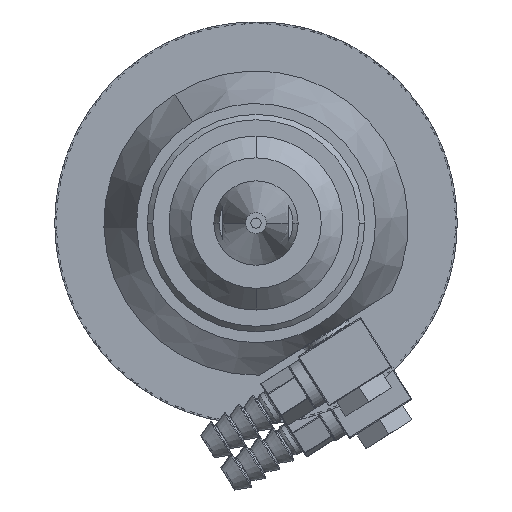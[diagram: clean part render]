
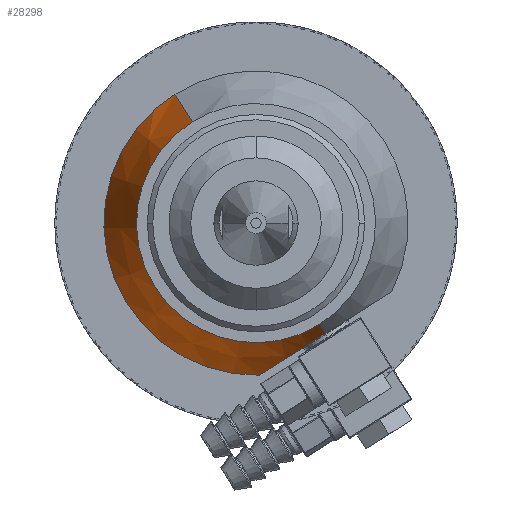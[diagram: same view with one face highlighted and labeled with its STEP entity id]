
A CAD part, front view. The second image highlights one B-rep face of the part: STEP entity #28298.
In plain terms, the highlighted conical face has half-angle 20.518 degrees and reference radius 17.462 mm.
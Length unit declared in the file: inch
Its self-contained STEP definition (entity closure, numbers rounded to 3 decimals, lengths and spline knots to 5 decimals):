
#683 = CARTESIAN_POINT ( 'NONE',  ( 0.10407, -0.0493, -0.82056 ) ) ;
#944 = CARTESIAN_POINT ( 'NONE',  ( 0.28427, -0.22201, -0.70722 ) ) ;
#1581 = AXIS2_PLACEMENT_3D ( 'NONE', #28275, #9425, #25218 ) ;
#2299 = CARTESIAN_POINT ( 'NONE',  ( 0., -0.4215, 0. ) ) ;
#3212 = EDGE_CURVE ( 'NONE', #35968, #34812, #36698, .T. ) ;
#3758 = CARTESIAN_POINT ( 'NONE',  ( 0.31649, -0.23769, -0.68695 ) ) ;
#3933 = CARTESIAN_POINT ( 'NONE',  ( 0.32483, -0.24076, -0.68171 ) ) ;
#4180 = CARTESIAN_POINT ( 'NONE',  ( 0.24646, -0.1977, -0.731 ) ) ;
#4681 = CONICAL_SURFACE ( 'NONE', #1581, 0.6875, 0.358 ) ;
#6682 = CARTESIAN_POINT ( 'NONE',  ( 0.32483, -0.24076, -0.68171 ) ) ;
#7260 = CARTESIAN_POINT ( 'NONE',  ( 0.2037, -0.16334, -0.7579 ) ) ;
#8387 = ORIENTED_EDGE ( 'NONE', *, *, #39801, .T. ) ;
#9425 = DIRECTION ( 'NONE',  ( 0., 1., 0. ) ) ;
#9861 = ORIENTED_EDGE ( 'NONE', *, *, #15005, .F. ) ;
#9943 = DIRECTION ( 'NONE',  ( -0.187, 0.937, 0.297 ) ) ;
#9999 = CARTESIAN_POINT ( 'NONE',  ( 0., 0.079, 0. ) ) ;
#11140 = EDGE_CURVE ( 'NONE', #29614, #34812, #31507, .T. ) ;
#13409 = ORIENTED_EDGE ( 'NONE', *, *, #3212, .T. ) ;
#13494 = VERTEX_POINT ( 'NONE', #32822 ) ;
#14435 = CARTESIAN_POINT ( 'NONE',  ( -0.36603, -0.4215, 0.58196 ) ) ;
#15005 = EDGE_CURVE ( 'NONE', #28095, #13494, #31580, .T. ) ;
#15560 = ORIENTED_EDGE ( 'NONE', *, *, #11140, .F. ) ;
#15779 = EDGE_CURVE ( 'NONE', #21252, #13494, #28825, .T. ) ;
#16040 = CARTESIAN_POINT ( 'NONE',  ( 0.34909, -0.24968, -0.66645 ) ) ;
#16889 = CARTESIAN_POINT ( 'NONE',  ( 0.05964, 0.01343, -0.8485 ) ) ;
#17202 = FACE_OUTER_BOUND ( 'NONE', #22317, .T. ) ;
#17230 = CIRCLE ( 'NONE', #26158, 0.6875 ) ;
#19421 = EDGE_CURVE ( 'NONE', #29614, #21252, #30838, .T. ) ;
#19788 = CARTESIAN_POINT ( 'NONE',  ( 0.36603, -0.4215, -0.58196 ) ) ;
#20128 = CARTESIAN_POINT ( 'NONE',  ( 0.17701, -0.13647, -0.77468 ) ) ;
#21206 = VECTOR ( 'NONE', #9943, 39.37008 ) ;
#21252 = VERTEX_POINT ( 'NONE', #3933 ) ;
#22317 = EDGE_LOOP ( 'NONE', ( #9861, #8387, #13409, #15560, #36040, #36952 ) ) ;
#23059 = CARTESIAN_POINT ( 'NONE',  ( 0.1273, -0.07954, -0.80594 ) ) ;
#23335 = CARTESIAN_POINT ( 'NONE',  ( 0.2612, -0.20819, -0.72173 ) ) ;
#24640 = CARTESIAN_POINT ( 'NONE',  ( -0.46576, 0.079, 0.74052 ) ) ;
#25218 = DIRECTION ( 'NONE',  ( -0.532, 0., 0.846 ) ) ;
#25546 = CARTESIAN_POINT ( 'NONE',  ( 0.37389, -0.2545, -0.65085 ) ) ;
#26158 = AXIS2_PLACEMENT_3D ( 'NONE', #2299, #34577, #34834 ) ;
#26356 = DIRECTION ( 'NONE',  ( 0.187, 0.937, -0.297 ) ) ;
#26533 = CARTESIAN_POINT ( 'NONE',  ( 0.29213, -0.2263, -0.70228 ) ) ;
#28095 = VERTEX_POINT ( 'NONE', #35757 ) ;
#28275 = CARTESIAN_POINT ( 'NONE',  ( 0., -0.4215, 0. ) ) ;
#28298 = ADVANCED_FACE ( 'NONE', ( #17202 ), #4681, .T. ) ;
#28825 = B_SPLINE_CURVE_WITH_KNOTS ( 'NONE', 3,
 ( #6682, #16040, #25546, #29275 ),
 .UNSPECIFIED., .F., .F.,
 ( 4, 4 ),
 ( 0.07523, 0.07746 ),
 .UNSPECIFIED. ) ;
#29275 = CARTESIAN_POINT ( 'NONE',  ( 0.3993, -0.2545, -0.63487 ) ) ;
#29367 = DIRECTION ( 'NONE',  ( 0., 1., 0. ) ) ;
#29614 = VERTEX_POINT ( 'NONE', #32624 ) ;
#30838 = B_SPLINE_CURVE_WITH_KNOTS ( 'NONE', 3,
 ( #32538, #39247, #16889, #683, #23059, #20128, #7260, #4180, #23335, #944, #26533, #36158, #3758, #38949 ),
 .UNSPECIFIED., .F., .F.,
 ( 4, 2, 2, 2, 2, 2, 4 ),
 ( 0.06298, 0.06604, 0.0691, 0.07217, 0.0737, 0.07446, 0.07523 ),
 .UNSPECIFIED. ) ;
#31507 = CIRCLE ( 'NONE', #39963, 0.87481 ) ;
#31580 = LINE ( 'NONE', #19788, #40092 ) ;
#32538 = CARTESIAN_POINT ( 'NONE',  ( 0.0181, 0.079, -0.87463 ) ) ;
#32624 = CARTESIAN_POINT ( 'NONE',  ( 0.0181, 0.079, -0.87463 ) ) ;
#32822 = CARTESIAN_POINT ( 'NONE',  ( 0.3993, -0.2545, -0.63487 ) ) ;
#34577 = DIRECTION ( 'NONE',  ( 0., 1., 0. ) ) ;
#34812 = VERTEX_POINT ( 'NONE', #24640 ) ;
#34834 = DIRECTION ( 'NONE',  ( -0.532, 0., 0.846 ) ) ;
#35757 = CARTESIAN_POINT ( 'NONE',  ( 0.36603, -0.4215, -0.58196 ) ) ;
#35968 = VERTEX_POINT ( 'NONE', #14435 ) ;
#36040 = ORIENTED_EDGE ( 'NONE', *, *, #19421, .T. ) ;
#36158 = CARTESIAN_POINT ( 'NONE',  ( 0.30821, -0.23413, -0.69216 ) ) ;
#36698 = LINE ( 'NONE', #38571, #21206 ) ;
#36952 = ORIENTED_EDGE ( 'NONE', *, *, #15779, .T. ) ;
#38344 = DIRECTION ( 'NONE',  ( 0., 0., 1. ) ) ;
#38571 = CARTESIAN_POINT ( 'NONE',  ( -0.36603, -0.4215, 0.58196 ) ) ;
#38949 = CARTESIAN_POINT ( 'NONE',  ( 0.32483, -0.24076, -0.68171 ) ) ;
#39247 = CARTESIAN_POINT ( 'NONE',  ( 0.03841, 0.04601, -0.86185 ) ) ;
#39801 = EDGE_CURVE ( 'NONE', #28095, #35968, #17230, .T. ) ;
#39963 = AXIS2_PLACEMENT_3D ( 'NONE', #9999, #29367, #38344 ) ;
#40092 = VECTOR ( 'NONE', #26356, 39.37008 ) ;
